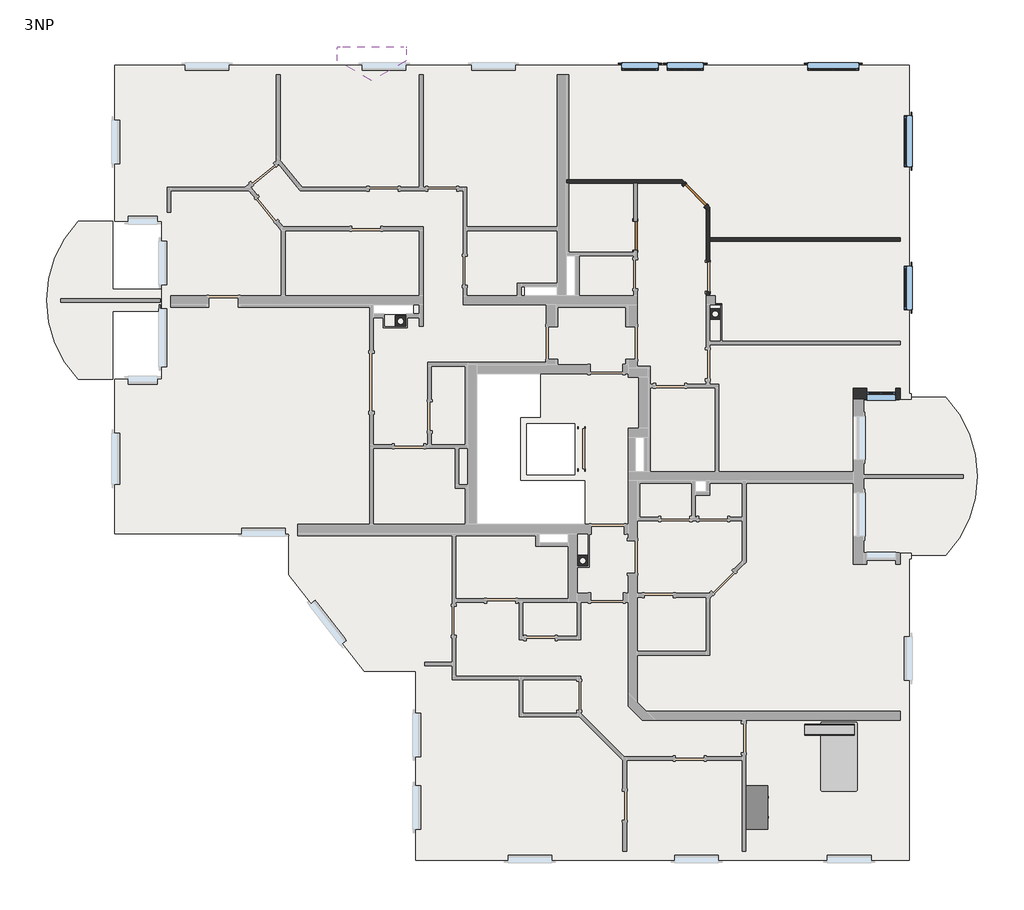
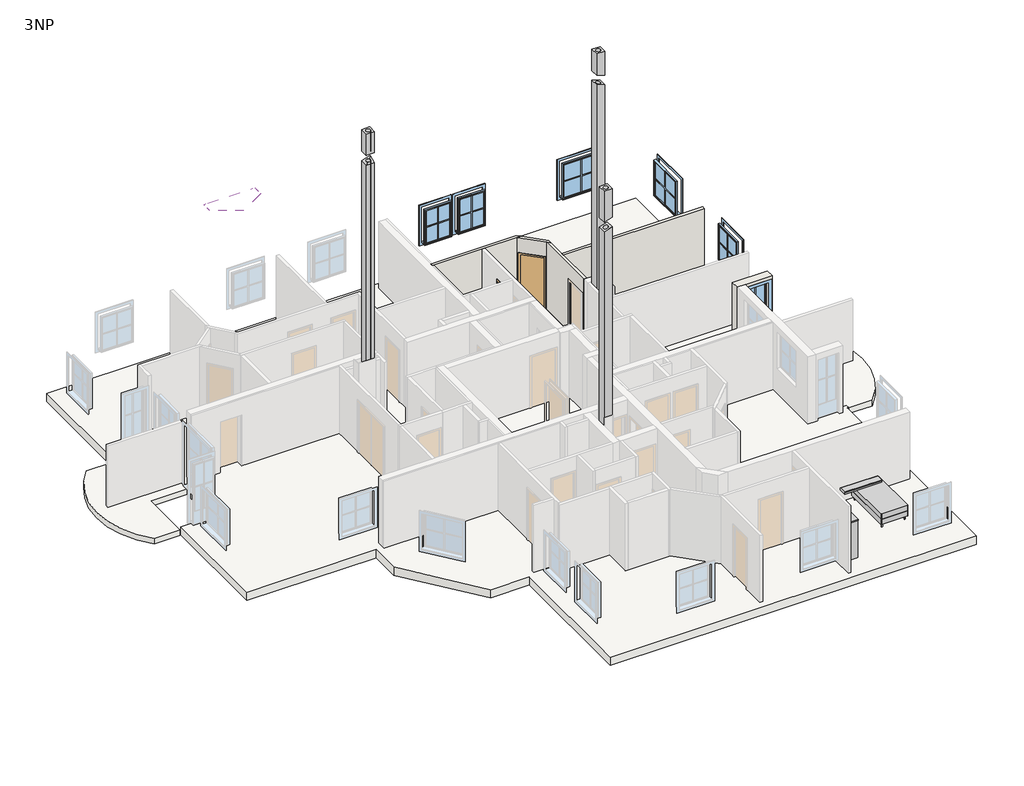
# One storey, part 4 of 4: 6 walls, 6 windows, 3 columns, 3 slabs, 2 doors, 2 furniture elements, 1 roof.
"""IFC4 building model written with IfcOpenShell, lengths in millimetres."""

from ifc_helpers import new_model, si_unit, point, frame, frame_2d, origin, place, context, project, spatial, polyline, circle_curve, ellipse_curve, trimmed, segment, composite_curve, outline, extrude, faceted_brep, transform, mapped, element, save
from ifc_brep_helpers import plane_surface, cylinder_surface, revolved_surface, advanced_brep
from components import sd_800x2000_80f4ff25, furniture_1000_x_1500_x_600mm_3ddbdefd, furniture_1000_x_1900mm_double_9a6708bb, standard_window_with_mullions_d3525f46, standard_window_with_mullions_80486b60, standard_window_with_mullions_12e20a72, window_2_4fa60929

model = new_model("IFC4")

# Units and contexts
model_context = context("Model", 3, world=origin())
ifc_project = project(units=[si_unit("LENGTHUNIT", "METRE", prefix="MILLI")], contexts=[model_context])

# Site, building, storey
site = spatial("IfcSite", under=ifc_project)
building = spatial("IfcBuilding", under=site)
storey = spatial("IfcBuildingStorey", under=building, Name="3NP", Elevation=5900.0)

# Columns
placement = place(None, origin())
element("IfcColumn", 1, ObjectType="AT Kamin : 300/300/160", at=placement, inside=storey, context=model_context, shape_type="AdvancedBrep", body=[
    advanced_brep(
    [(-4557.1962165, 3917.6290541, 17750.0), (-4857.1962165, 3917.6290541, 17750.0), (-4857.1962165, 3617.6290541, 17750.0), (-4557.1962165, 3617.6290541, 17750.0), (-4787.1962165, 3767.6290541, 17750.0), (-4627.1962165, 3767.6290541, 17750.0), (-4557.1962165, 3917.6290541, 17000.1974097), (-4857.1962165, 3917.6290541, 16902.7215009), (-4857.1962165, 3617.6290541, 16902.7215009), (-4841.2600407, 3617.6290541, 16907.8994783), (-4557.1962165, 3617.6290541, 16907.8994783), (-4557.1962165, 3901.6928783, 17000.1974097), (-4787.1962165, 3767.6290541, 16925.4658796), (-4643.223579, 3815.6655158, 16972.2454252), (-4627.1962165, 3767.6290541, 16956.6374327), (-4755.2326782, 3703.6564166, 16935.8514628)],
    [
        (0, 1),
        (1, 2),
        (2, 3),
        (3, 0),
        (4, 5, circle_curve(frame((-4707.1962165, 3767.6290541, 17750.0), z_axis=(0.0, 0.0, -1.0), x_axis=(1.0, 0.0, 0.0)), 80.0)),
        (5, 4, circle_curve(frame((-4707.1962165, 3767.6290541, 17750.0), z_axis=(0.0, 0.0, -1.0), x_axis=(1.0, 0.0, 0.0)), 80.0)),
        (0, 6),
        (6, 7),
        (7, 1),
        (7, 8),
        (8, 2),
        (8, 9),
        (9, 10),
        (10, 3),
        (10, 11),
        (11, 6),
        (4, 12),
        (12, 13, ellipse_curve(frame((-4707.1962165, 3767.6290541, 16951.4594553), z_axis=(0.30901699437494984, 0.0, -0.9510565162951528), x_axis=(-0.9510565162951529, 0.0, -0.30901699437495)), 84.1169779, 80.0)),
        (13, 14, ellipse_curve(frame((-4707.1962165, 3767.6290541, 16956.6374327), z_axis=(0.0, 0.30901699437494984, -0.9510565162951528), x_axis=(0.0, -0.9510565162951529, -0.30901699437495)), 84.1169779, 80.0)),
        (14, 5),
        (14, 15, ellipse_curve(frame((-4707.1962165, 3767.6290541, 16956.6374327), z_axis=(0.0, 0.30901699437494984, -0.9510565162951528), x_axis=(0.0, -0.9510565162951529, -0.30901699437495)), 84.1169779, 80.0)),
        (15, 12, ellipse_curve(frame((-4707.1962165, 3767.6290541, 16951.4594553), z_axis=(0.30901699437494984, 0.0, -0.9510565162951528), x_axis=(-0.9510565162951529, 0.0, -0.30901699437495)), 84.1169779, 80.0)),
        (11, 13),
        (15, 9),
    ],
    [
        plane_surface(frame((-4857.1962165, 3917.6290541, 17750.0), z_axis=(0.0, 0.0, 1.0), x_axis=(-1.0, 0.0, 0.0))),
        plane_surface(frame((-4557.1962165, 3917.6290541, 17750.0), z_axis=(0.0, 1.0, 0.0), x_axis=(0.0, 0.0, -1.0))),
        plane_surface(frame((-4857.1962165, 3917.6290541, 17750.0), z_axis=(-1.0, 0.0, 0.0), x_axis=(0.0, 0.0, -1.0))),
        plane_surface(frame((-4857.1962165, 3617.6290541, 17750.0), z_axis=(0.0, -1.0, 0.0), x_axis=(0.0, 0.0, -1.0))),
        plane_surface(frame((-4557.1962165, 3617.6290541, 17750.0), z_axis=(1.0, 0.0, 0.0), x_axis=(0.0, 0.0, -1.0))),
        revolved_surface(polyline([(-4627.1962165, 3767.6290541, 16925.4658796), (-4627.1962165, 3767.6290541, 17750.0)]), (-4707.1962165, 3767.6290541, 5900.0), (0.0, 0.0, -1.0)),
        plane_surface(frame((-8021.8499172, 8372.0175181, 15874.4631818), z_axis=(0.30901699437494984, 0.0, -0.9510565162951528), x_axis=(0.0, -1.0, 0.0))),
        plane_surface(frame((-8021.8499172, 437.0391776, 15874.4631818), z_axis=(0.0, 0.30901699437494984, -0.9510565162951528), x_axis=(1.0, 0.0, 0.0))),
    ],
    [
        (0, [[1, 2, 3, 4], [5, 6]]),
        (1, [[-1, 7, 8, 9]]),
        (2, [[-2, -9, 10, 11]]),
        (3, [[-3, -11, 12, 13, 14]]),
        (4, [[-4, -14, 15, 16, -7]]),
        (5, [[-5, 17, 18, 19, 20]]),
        (5, [[-6, -20, 21, 22, -17]]),
        (6, [[23, -18, -22, 24, -12, -10, -8, -16]]),
        (7, [[-23, -15, -13, -24, -21, -19]]),
    ],
),
    advanced_brep(
    [(-4557.1962165, 3917.6290541, 5900.0), (-4557.1962165, 3867.6290541, 5900.0), (-4557.1962165, 3617.6290541, 5900.0), (-4857.1962165, 3617.6290541, 5900.0), (-4857.1962165, 3917.6290541, 5900.0), (-4787.1962165, 3767.6290541, 5900.0), (-4627.1962165, 3767.6290541, 5900.0), (-4643.223579, 3815.6655158, 16593.7190245), (-4557.1962165, 3901.6928783, 16621.671009), (-4557.1962165, 3917.6290541, 16621.671009), (-4857.1962165, 3917.6290541, 16524.1951001), (-4857.1962165, 3617.6290541, 16524.1951001), (-4841.2600407, 3617.6290541, 16529.3730775), (-4755.2326782, 3703.6564166, 16557.325062), (-4787.1962165, 3767.6290541, 16546.9394789), (-4627.1962165, 3767.6290541, 16578.111032), (-4557.1962165, 3617.6290541, 16529.3730775), (-4557.1962165, 3617.6290541, 8850.0)],
    [
        (0, 1),
        (1, 2),
        (2, 3),
        (3, 4),
        (4, 0),
        (5, 6, circle_curve(frame((-4707.1962165, 3767.6290541, 5900.0), z_axis=(0.0, 0.0, 1.0), x_axis=(1.0, 0.0, 0.0)), 80.0)),
        (6, 5, circle_curve(frame((-4707.1962165, 3767.6290541, 5900.0), z_axis=(0.0, 0.0, 1.0), x_axis=(1.0, 0.0, 0.0)), 80.0)),
        (7, 8),
        (8, 9),
        (9, 10),
        (10, 11),
        (11, 12),
        (12, 13),
        (13, 14, ellipse_curve(frame((-4707.1962165, 3767.6290541, 16572.9330546), z_axis=(0.30901699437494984, 0.0, -0.9510565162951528), x_axis=(-0.9510565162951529, 0.0, -0.30901699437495)), 84.1169779, 80.0)),
        (14, 7, ellipse_curve(frame((-4707.1962165, 3767.6290541, 16572.9330546), z_axis=(0.30901699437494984, 0.0, -0.9510565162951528), x_axis=(-0.9510565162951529, 0.0, -0.30901699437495)), 84.1169779, 80.0)),
        (7, 15, ellipse_curve(frame((-4707.1962165, 3767.6290541, 16578.111032), z_axis=(0.0, 0.30901699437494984, -0.9510565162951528), x_axis=(0.0, -0.9510565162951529, -0.30901699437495)), 84.1169779, 80.0)),
        (15, 13, ellipse_curve(frame((-4707.1962165, 3767.6290541, 16578.111032), z_axis=(0.0, 0.30901699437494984, -0.9510565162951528), x_axis=(0.0, -0.9510565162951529, -0.30901699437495)), 84.1169779, 80.0)),
        (12, 16),
        (16, 8),
        (4, 10),
        (9, 0),
        (3, 11),
        (2, 17),
        (17, 16),
        (6, 15),
        (14, 5),
    ],
    [
        plane_surface(frame((-4857.1962165, 3917.6290541, 5900.0), z_axis=(0.0, 0.0, -1.0), x_axis=(1.0, 0.0, 0.0))),
        plane_surface(frame((-8021.8499172, 8372.0175181, 15495.936781), z_axis=(-0.30901699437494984, 0.0, 0.9510565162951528), x_axis=(0.0, -1.0, 0.0))),
        plane_surface(frame((-8021.8499172, 437.0391776, 15495.936781), z_axis=(0.0, -0.30901699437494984, 0.9510565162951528), x_axis=(1.0, 0.0, 0.0))),
        plane_surface(frame((-4557.1962165, 3917.6290541, 17750.0), z_axis=(0.0, 1.0, 0.0), x_axis=(0.0, 0.0, -1.0))),
        plane_surface(frame((-4857.1962165, 3917.6290541, 17750.0), z_axis=(-1.0, 0.0, 0.0), x_axis=(0.0, 0.0, -1.0))),
        plane_surface(frame((-4857.1962165, 3617.6290541, 17750.0), z_axis=(0.0, -1.0, 0.0), x_axis=(0.0, 0.0, -1.0))),
        plane_surface(frame((-4557.1962165, 3617.6290541, 17750.0), z_axis=(1.0, 0.0, 0.0), x_axis=(0.0, 0.0, -1.0))),
        revolved_surface(polyline([(-4627.1962165, 3767.6290541, 5900.0), (-4627.1962165, 3767.6290541, 16604.10460768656)]), (-4707.1962165, 3767.6290541, 5900.0), (0.0, 0.0, -1.0)),
    ],
    [
        (0, [[1, 2, 3, 4, 5], [6, 7]]),
        (1, [[8, 9, 10, 11, 12, 13, 14, 15]]),
        (2, [[-8, 16, 17, -13, 18, 19]]),
        (3, [[-5, 20, -10, 21]]),
        (4, [[-4, 22, -11, -20]]),
        (5, [[-3, 23, 24, -18, -12, -22]]),
        (6, [[-2, -1, -21, -9, -19, -24, -23]]),
        (7, [[-7, 25, -16, -15, 26]]),
        (7, [[-6, -26, -14, -17, -25]]),
    ],
),
])
element("IfcColumn", 2, ObjectType="AT Kamin : 300/300/160", at=placement, inside=storey, context=model_context, shape_type="AdvancedBrep", body=[
    advanced_brep(
    [(463.5618728, -2682.3709459, 17750.0), (163.5618728, -2682.3709459, 17750.0), (163.5618728, -2982.3709459, 17750.0), (463.5618728, -2982.3709459, 17750.0), (233.5618728, -2832.3709459, 17750.0), (393.5618728, -2832.3709459, 17750.0), (463.5618728, -2682.3709459, 16623.4506996), (163.5618728, -2682.3709459, 16525.9747908), (163.5618728, -2982.3709459, 16525.9747908), (463.5618728, -2982.3709459, 16623.4506996), (233.5618728, -2832.3709459, 16548.7191695), (393.5618728, -2832.3709459, 16600.7063209)],
    [
        (0, 1),
        (1, 2),
        (2, 3),
        (3, 0),
        (4, 5, circle_curve(frame((313.5618728, -2832.3709459, 17750.0), z_axis=(0.0, 0.0, -1.0), x_axis=(1.0, 0.0, 0.0)), 80.0)),
        (5, 4, circle_curve(frame((313.5618728, -2832.3709459, 17750.0), z_axis=(0.0, 0.0, -1.0), x_axis=(1.0, 0.0, 0.0)), 80.0)),
        (0, 6),
        (6, 7),
        (7, 1),
        (7, 8),
        (8, 2),
        (8, 9),
        (9, 3),
        (9, 6),
        (4, 10),
        (10, 11, ellipse_curve(frame((313.5618728, -2832.3709459, 16574.7127452), z_axis=(0.30901699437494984, 0.0, -0.9510565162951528), x_axis=(-0.9510565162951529, 0.0, -0.30901699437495)), 84.1169779, 80.0)),
        (11, 5),
        (11, 10, ellipse_curve(frame((313.5618728, -2832.3709459, 16574.7127452), z_axis=(0.30901699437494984, 0.0, -0.9510565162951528), x_axis=(-0.9510565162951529, 0.0, -0.30901699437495)), 84.1169779, 80.0)),
    ],
    [
        plane_surface(frame((163.5618728, -2682.3709459, 17750.0), z_axis=(0.0, 0.0, 1.0), x_axis=(-1.0, 0.0, 0.0))),
        plane_surface(frame((463.5618728, -2682.3709459, 17750.0), z_axis=(0.0, 1.0, 0.0), x_axis=(0.0, 0.0, -1.0))),
        plane_surface(frame((163.5618728, -2682.3709459, 17750.0), z_axis=(-1.0, 0.0, 0.0), x_axis=(0.0, 0.0, -1.0))),
        plane_surface(frame((163.5618728, -2982.3709459, 17750.0), z_axis=(0.0, -1.0, 0.0), x_axis=(0.0, 0.0, -1.0))),
        plane_surface(frame((463.5618728, -2982.3709459, 17750.0), z_axis=(1.0, 0.0, 0.0), x_axis=(0.0, 0.0, -1.0))),
        revolved_surface(polyline([(393.5618728, -2832.3709459, 16548.7191695), (393.5618728, -2832.3709459, 17750.0)]), (313.5618728, -2832.3709459, 5900.0), (0.0, 0.0, -1.0)),
        plane_surface(frame((-1841.5846805, 437.0391776, 15874.4631818), z_axis=(0.30901699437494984, 0.0, -0.9510565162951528), x_axis=(0.0, -1.0, 0.0))),
    ],
    [
        (0, [[1, 2, 3, 4], [5, 6]]),
        (1, [[-1, 7, 8, 9]]),
        (2, [[-2, -9, 10, 11]]),
        (3, [[-3, -11, 12, 13]]),
        (4, [[-4, -13, 14, -7]]),
        (5, [[-5, 15, 16, 17]]),
        (5, [[-6, -17, 18, -15]]),
        (6, [[-8, -14, -12, -10], [-16, -18]]),
    ],
),
    advanced_brep(
    [(463.5618728, -2682.3709459, 5900.0), (463.5618728, -2982.3709459, 5900.0), (163.5618728, -2982.3709459, 5900.0), (163.5618728, -2682.3709459, 5900.0), (233.5618728, -2832.3709459, 5900.0), (393.5618728, -2832.3709459, 5900.0), (463.5618728, -2682.3709459, 16244.9242989), (163.5618728, -2682.3709459, 16147.44839), (163.5618728, -2982.3709459, 16147.44839), (463.5618728, -2982.3709459, 16244.9242989), (233.5618728, -2832.3709459, 16170.1927688), (393.5618728, -2832.3709459, 16222.1799202), (163.5618728, -2982.3709459, 8850.0), (463.5618728, -2982.3709459, 8850.0)],
    [
        (0, 1),
        (1, 2),
        (2, 3),
        (3, 0),
        (4, 5, circle_curve(frame((313.5618728, -2832.3709459, 5900.0), z_axis=(0.0, 0.0, 1.0), x_axis=(1.0, 0.0, 0.0)), 80.0)),
        (5, 4, circle_curve(frame((313.5618728, -2832.3709459, 5900.0), z_axis=(0.0, 0.0, 1.0), x_axis=(1.0, 0.0, 0.0)), 80.0)),
        (6, 7),
        (7, 8),
        (8, 9),
        (9, 6),
        (10, 11, ellipse_curve(frame((313.5618728, -2832.3709459, 16196.1863445), z_axis=(0.30901699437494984, 0.0, -0.9510565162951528), x_axis=(-0.9510565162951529, 0.0, -0.30901699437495)), 84.1169779, 80.0)),
        (11, 10, ellipse_curve(frame((313.5618728, -2832.3709459, 16196.1863445), z_axis=(0.30901699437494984, 0.0, -0.9510565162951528), x_axis=(-0.9510565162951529, 0.0, -0.30901699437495)), 84.1169779, 80.0)),
        (3, 7),
        (6, 0),
        (2, 12),
        (12, 8),
        (1, 13),
        (13, 9),
        (5, 11),
        (10, 4),
    ],
    [
        plane_surface(frame((163.5618728, -2682.3709459, 5900.0), z_axis=(0.0, 0.0, -1.0), x_axis=(1.0, 0.0, 0.0))),
        plane_surface(frame((-1841.5846805, 437.0391776, 15495.936781), z_axis=(-0.30901699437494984, 0.0, 0.9510565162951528), x_axis=(0.0, -1.0, 0.0))),
        plane_surface(frame((463.5618728, -2682.3709459, 17750.0), z_axis=(0.0, 1.0, 0.0), x_axis=(0.0, 0.0, -1.0))),
        plane_surface(frame((163.5618728, -2682.3709459, 17750.0), z_axis=(-1.0, 0.0, 0.0), x_axis=(0.0, 0.0, -1.0))),
        plane_surface(frame((163.5618728, -2982.3709459, 17750.0), z_axis=(0.0, -1.0, 0.0), x_axis=(0.0, 0.0, -1.0))),
        plane_surface(frame((463.5618728, -2982.3709459, 17750.0), z_axis=(1.0, 0.0, 0.0), x_axis=(0.0, 0.0, -1.0))),
        revolved_surface(polyline([(393.5618728, -2832.3709459, 5900.0), (393.5618728, -2832.3709459, 16222.1799202)]), (313.5618728, -2832.3709459, 5900.0), (0.0, 0.0, -1.0)),
    ],
    [
        (0, [[1, 2, 3, 4], [5, 6]]),
        (1, [[7, 8, 9, 10], [11, 12]]),
        (2, [[-4, 13, -7, 14]]),
        (3, [[-3, 15, 16, -8, -13]]),
        (4, [[-2, 17, 18, -9, -16, -15]]),
        (5, [[-1, -14, -10, -18, -17]]),
        (6, [[-6, 19, -11, 20]]),
        (6, [[-5, -20, -12, -19]]),
    ],
),
])
element("IfcColumn", 3, ObjectType="AT Kamin : 300/300/160", at=placement, inside=storey, context=model_context, shape_type="AdvancedBrep", body=[
    advanced_brep(
    [(4112.8037835, 4116.2076978, 17750.0), (3812.8037835, 4116.2076978, 17750.0), (3812.8037835, 3816.2076978, 17750.0), (4112.8037835, 3816.2076978, 17750.0), (3882.8037835, 3966.2076978, 17750.0), (4042.8037835, 3966.2076978, 17750.0), (4112.8037835, 4116.2076978, 16807.8848523), (3812.8037835, 4116.2076978, 16905.3607612), (3812.8037835, 3816.2076978, 16905.3607612), (4112.8037835, 3816.2076978, 16807.8848523), (3882.8037835, 3966.2076978, 16882.6163825), (4042.8037835, 3966.2076978, 16830.6292311)],
    [
        (0, 1),
        (1, 2),
        (2, 3),
        (3, 0),
        (4, 5, circle_curve(frame((3962.8037835, 3966.2076978, 17750.0), z_axis=(0.0, 0.0, -1.0), x_axis=(1.0, 0.0, 0.0)), 80.0)),
        (5, 4, circle_curve(frame((3962.8037835, 3966.2076978, 17750.0), z_axis=(0.0, 0.0, -1.0), x_axis=(1.0, 0.0, 0.0)), 80.0)),
        (0, 6),
        (6, 7),
        (7, 1),
        (7, 8),
        (8, 2),
        (8, 9),
        (9, 3),
        (9, 6),
        (4, 10),
        (10, 11, ellipse_curve(frame((3962.8037835, 3966.2076978, 16856.6228068), z_axis=(-0.30901699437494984, 0.0, -0.9510565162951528), x_axis=(0.9510565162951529, 0.0, -0.30901699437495)), 84.1169779, 80.0)),
        (11, 5),
        (11, 10, ellipse_curve(frame((3962.8037835, 3966.2076978, 16856.6228068), z_axis=(-0.30901699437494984, 0.0, -0.9510565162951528), x_axis=(0.9510565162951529, 0.0, -0.30901699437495)), 84.1169779, 80.0)),
    ],
    [
        plane_surface(frame((3812.8037835, 4116.2076978, 17750.0), z_axis=(0.0, 0.0, 1.0), x_axis=(-1.0, 0.0, 0.0))),
        plane_surface(frame((4112.8037835, 4116.2076978, 17750.0), z_axis=(0.0, 1.0, 0.0), x_axis=(0.0, 0.0, -1.0))),
        plane_surface(frame((3812.8037835, 4116.2076978, 17750.0), z_axis=(-1.0, 0.0, 0.0), x_axis=(0.0, 0.0, -1.0))),
        plane_surface(frame((3812.8037835, 3816.2076978, 17750.0), z_axis=(0.0, -1.0, 0.0), x_axis=(0.0, 0.0, -1.0))),
        plane_surface(frame((4112.8037835, 3816.2076978, 17750.0), z_axis=(1.0, 0.0, 0.0), x_axis=(0.0, 0.0, -1.0))),
        revolved_surface(polyline([(4042.8037835, 3966.2076978, 16830.6292311), (4042.8037835, 3966.2076978, 17750.0)]), (3962.8037835, 3966.2076978, 5900.0), (0.0, 0.0, -1.0)),
        plane_surface(frame((6985.5802922, -11532.3709459, 15874.4631818), z_axis=(-0.30901699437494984, 0.0, -0.9510565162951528), x_axis=(0.0, 1.0, 0.0))),
    ],
    [
        (0, [[1, 2, 3, 4], [5, 6]]),
        (1, [[-1, 7, 8, 9]]),
        (2, [[-2, -9, 10, 11]]),
        (3, [[-3, -11, 12, 13]]),
        (4, [[-4, -13, 14, -7]]),
        (5, [[-5, 15, 16, 17]]),
        (5, [[-6, -17, 18, -15]]),
        (6, [[-8, -14, -12, -10], [-16, -18]]),
    ],
),
    advanced_brep(
    [(4112.8037835, 4116.2076978, 5900.0), (4112.8037835, 3816.2076978, 5900.0), (3812.8037835, 3816.2076978, 5900.0), (3812.8037835, 4116.2076978, 5900.0), (3882.8037835, 3966.2076978, 5900.0), (4042.8037835, 3966.2076978, 5900.0), (4112.8037835, 4116.2076978, 16429.3584516), (4012.8037835, 4116.2076978, 16461.8504212), (3882.8037835, 4116.2076978, 16504.0899817), (3812.8037835, 4116.2076978, 16526.8343605), (3812.8037835, 3816.2076978, 16526.8343605), (4112.8037835, 3816.2076978, 16429.3584516), (3882.8037835, 3966.2076978, 16504.0899817), (4042.8037835, 3966.2076978, 16452.1028303), (4112.8037835, 4116.2076978, 11800.0)],
    [
        (0, 1),
        (1, 2),
        (2, 3),
        (3, 0),
        (4, 5, circle_curve(frame((3962.8037835, 3966.2076978, 5900.0), z_axis=(0.0, 0.0, 1.0), x_axis=(1.0, 0.0, 0.0)), 80.0)),
        (5, 4, circle_curve(frame((3962.8037835, 3966.2076978, 5900.0), z_axis=(0.0, 0.0, 1.0), x_axis=(1.0, 0.0, 0.0)), 80.0)),
        (6, 7),
        (7, 8),
        (8, 9),
        (9, 10),
        (10, 11),
        (11, 6),
        (12, 13, ellipse_curve(frame((3962.8037835, 3966.2076978, 16478.096406), z_axis=(-0.30901699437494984, 0.0, -0.9510565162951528), x_axis=(0.9510565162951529, 0.0, -0.30901699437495)), 84.1169779, 80.0)),
        (13, 12, ellipse_curve(frame((3962.8037835, 3966.2076978, 16478.096406), z_axis=(-0.30901699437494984, 0.0, -0.9510565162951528), x_axis=(0.9510565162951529, 0.0, -0.30901699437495)), 84.1169779, 80.0)),
        (3, 9),
        (6, 14),
        (14, 0),
        (2, 10),
        (1, 11),
        (5, 13),
        (12, 4),
    ],
    [
        plane_surface(frame((3812.8037835, 4116.2076978, 5900.0), z_axis=(0.0, 0.0, -1.0), x_axis=(1.0, 0.0, 0.0))),
        plane_surface(frame((6985.5802922, -11532.3709459, 15495.936781), z_axis=(0.30901699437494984, 0.0, 0.9510565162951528), x_axis=(0.0, 1.0, 0.0))),
        plane_surface(frame((4112.8037835, 4116.2076978, 17750.0), z_axis=(0.0, 1.0, 0.0), x_axis=(0.0, 0.0, -1.0))),
        plane_surface(frame((3812.8037835, 4116.2076978, 17750.0), z_axis=(-1.0, 0.0, 0.0), x_axis=(0.0, 0.0, -1.0))),
        plane_surface(frame((3812.8037835, 3816.2076978, 17750.0), z_axis=(0.0, -1.0, 0.0), x_axis=(0.0, 0.0, -1.0))),
        plane_surface(frame((4112.8037835, 3816.2076978, 17750.0), z_axis=(1.0, 0.0, 0.0), x_axis=(0.0, 0.0, -1.0))),
        revolved_surface(polyline([(4042.8037835, 3966.2076978, 5900.0), (4042.8037835, 3966.2076978, 16504.0899817)]), (3962.8037835, 3966.2076978, 5900.0), (0.0, 0.0, -1.0)),
    ],
    [
        (0, [[1, 2, 3, 4], [5, 6]]),
        (1, [[7, 8, 9, 10, 11, 12], [13, 14]]),
        (2, [[-4, 15, -9, -8, -7, 16, 17]]),
        (3, [[-3, 18, -10, -15]]),
        (4, [[-2, 19, -11, -18]]),
        (5, [[-1, -17, -16, -12, -19]]),
        (6, [[-6, 20, -13, 21]]),
        (6, [[-5, -21, -14, -20]]),
    ],
),
])

# Doors
sd_800x2000_shape = sd_800x2000_80f4ff25(model_context)
element("IfcDoor", 4, ObjectType="JednokridlePlne : SD 800x2000", at=placement, inside=storey, context=model_context, shape_type="MappedRepresentation", body=[
    mapped(sd_800x2000_shape, transform((3410.8458954, 7240.2976203, 5900.0), x_axis=(0.7071067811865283, -0.7071067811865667, 0.0), y_axis=(0.7071067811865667, 0.7071067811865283, 0.0), z_axis=(0.0, 0.0, 1.0))),
])
element("IfcDoor", 5, ObjectType="JednokridlePlne : SD 800x2000", at=placement, inside=storey, context=model_context, shape_type="MappedRepresentation", body=[
    mapped(sd_800x2000_shape, transform((1762.8037835, 6127.9240135, 5900.0), x_axis=(0.0, -1.0, 0.0), y_axis=(1.0, 0.0, 0.0), z_axis=(0.0, 0.0, 1.0))),
])

# Furniture
furniture_1000_x_1500_x_600mm_shape = furniture_1000_x_1500_x_600mm_3ddbdefd(model_context)
element("IfcFurniture", 6, ObjectType="Skrin : 1000 x 1500 x 600mm", at=placement, inside=storey, context=model_context, shape_type="MappedRepresentation", body=[
    mapped(furniture_1000_x_1500_x_600mm_shape, transform((4744.8762589, -9358.6647837, 5900.0), x_axis=(0.0, 1.0, 0.0), y_axis=(-1.0, 0.0, 0.0), z_axis=(0.0, 0.0, 1.0))),
])
furniture_1000_x_1900mm_double_shape = furniture_1000_x_1900mm_double_9a6708bb(model_context)
element("IfcFurniture", 7, ObjectType="Postel : 1000 x 1900mm - Double", at=placement, inside=storey, context=model_context, shape_type="MappedRepresentation", body=[
    mapped(furniture_1000_x_1900mm_double_shape, transform((7105.3152589, -8186.7758639, 5900.0), x_axis=(1.0, 0.0, 0.0), y_axis=(0.0, 1.0, 0.0), z_axis=(0.0, 0.0, 1.0))),
])

# Roof
element("IfcRoof", 8, ObjectType="Dormer", at=placement, inside=storey, context=model_context, shape_type="Brep", body=[
    faceted_brep([(-6450.2469102, 11337.6290541, 10859.1168825), (-6450.2469102, 11337.6290541, 11412.1320344), (-5500.2469102, 11337.6290541, 12362.1320344), (-4550.2469102, 11337.6290541, 11412.1320344), (-4550.2469102, 11337.6290541, 10859.1168825), (-4700.2469102, 11337.6290541, 10859.1168825), (-4700.2469102, 11337.6290541, 11350.0), (-5500.2469102, 11337.6290541, 12150.0), (-6300.2469102, 11337.6290541, 11350.0), (-6300.2469102, 11337.6290541, 10859.1168825), (-6450.2469102, 11267.6290541, 10859.1168825), (-6450.2469102, 10948.3456073, 11412.1320344), (-5500.2469102, 10399.8628515, 12362.1320344), (-4550.2469102, 10948.3456073, 11412.1320344), (-4550.2469102, 11267.6290541, 10859.1168825), (-4700.2469102, 11267.6290541, 10859.1168825), (-4700.2469102, 10984.217554, 11350.0), (-5500.2469102, 10522.3373387, 12150.0), (-6300.2469102, 10984.217554, 11350.0), (-6300.2469102, 11267.6290541, 10859.1168825)], [[[0, 1, 2, 3, 4, 5, 6, 7, 8, 9]], [[1, 0, 10, 11]], [[2, 1, 11, 12]], [[3, 2, 12, 13]], [[4, 3, 13, 14]], [[5, 4, 14, 15]], [[6, 5, 15, 16]], [[7, 6, 16, 17]], [[8, 7, 17, 18]], [[9, 8, 18, 19]], [[0, 9, 19, 10]], [[10, 19, 18, 17, 16, 15, 14, 13, 12, 11]]]),
])

# Slabs
element("IfcSlab", 9, ObjectType="Concrete", at=placement, inside=storey, context=model_context, shape_type="SweptSolid", body=[
    extrude(outline(composite_curve([segment(trimmed(circle_curve(frame_2d((-11337.1962165, 4342.6290541)), 3128.236703), [point((-13585.5822754, 2167.6290541))], [point((-13585.5822754, 6517.6290541))], False, "CARTESIAN"), True, "CONTINUOUS"), segment(polyline([(-13585.5822754, 6517.6290541), (-12637.1962165, 6517.6290541), (-12637.1962165, 4647.6290541), (-11287.1962165, 4647.6290541), (-11287.1962165, 4037.6290541), (-12637.1962165, 4037.6290541), (-12637.1962165, 2167.6290541), (-13585.5822754, 2167.6290541)]), True, "CONTINUOUS")], self_intersect=False)), frame((0.0, 0.0, 5580.0), z_axis=(0.0, 0.0, 1.0), x_axis=(1.0, 0.0, 0.0)), (0.0, 0.0, 1.0), 220.0),
])
element("IfcSlab", 10, ObjectType="Concrete", at=placement, inside=storey, context=model_context, shape_type="AdvancedBrep", body=[
    advanced_brep(
    [(10311.1898424, 1667.6290541, 5580.0), (10311.1898424, -2682.3709459, 5580.0), (9362.8037835, -2682.3709459, 5580.0), (8012.8037835, -2682.3709459, 5580.0), (8012.8037835, 1667.6290541, 5580.0), (9362.8037835, 1667.6290541, 5580.0), (10311.1898424, 1667.6290541, 5800.0), (8012.8037835, 1667.6290541, 5800.0), (8012.8037835, -2682.3709459, 5800.0), (10311.1898424, -2682.3709459, 5800.0)],
    [
        (0, 1, circle_curve(frame((8062.8037835, -507.3709459, 5580.0), z_axis=(0.0, 0.0, -1.0), x_axis=(1.0, 0.0, 0.0)), 3128.236703)),
        (1, 2),
        (2, 3),
        (3, 4),
        (4, 5),
        (5, 0),
        (6, 7),
        (7, 8),
        (8, 9),
        (9, 6, circle_curve(frame((8062.8037835, -507.3709459, 5800.0), z_axis=(0.0, 0.0, 1.0), x_axis=(1.0, 0.0, 0.0)), 3128.236703)),
        (0, 6),
        (9, 1),
        (8, 3),
        (7, 4),
    ],
    [
        plane_surface(frame((11191.0404865, -507.3709459, 5580.0), z_axis=(0.0, 0.0, -1.0), x_axis=(0.0, -1.0, 0.0))),
        plane_surface(frame((11191.0404865, -507.3709459, 5800.0), z_axis=(0.0, 0.0, 1.0), x_axis=(0.0, 1.0, 0.0))),
        cylinder_surface(frame((8062.8037835, -507.3709459, 5800.0), z_axis=(0.0, 0.0, -1.0), x_axis=(1.0, 0.0, 0.0)), 3128.236703),
        plane_surface(frame((10311.1898424, -2682.3709459, 5580.0), z_axis=(0.0, -1.0, 0.0), x_axis=(0.0, 0.0, 1.0))),
        plane_surface(frame((8012.8037835, -2682.3709459, 5580.0), z_axis=(-1.0, 0.0, 0.0), x_axis=(0.0, 0.0, 1.0))),
        plane_surface(frame((8012.8037835, 1667.6290541, 5580.0), z_axis=(0.0, 1.0, 0.0), x_axis=(0.0, 0.0, 1.0))),
    ],
    [
        (0, [[1, 2, 3, 4, 5, 6]]),
        (1, [[7, 8, 9, 10]]),
        (2, [[-1, 11, -10, 12]]),
        (3, [[-3, -2, -12, -9, 13]]),
        (4, [[-4, -13, -8, 14]]),
        (5, [[-6, -5, -14, -7, -11]]),
    ],
),
])
element("IfcSlab", 11, ObjectType="STB200 + 120", at=placement, inside=storey, context=model_context, shape_type="Brep", body=[
    faceted_brep([(9312.8037835, 10817.6290541, 5580.0), (9312.8037835, 1767.6290541, 5580.0), (9362.8037835, 1767.6290541, 5580.0), (9362.8037835, 1667.6290541, 5580.0), (8012.8037835, 1667.6290541, 5580.0), (8012.8037835, -2682.3709459, 5580.0), (9362.8037835, -2682.3709459, 5580.0), (9362.8037835, -2782.3709459, 5580.0), (9312.8037835, -2782.3709459, 5580.0), (9312.8037835, -11082.3709459, 5580.0), (-4287.1962165, -11082.3709459, 5580.0), (-4287.1962165, -5882.3709459, 5580.0), (-5712.7420262, -5882.3709459, 5580.0), (-7787.1962165, -3215.2155584, 5580.0), (-7787.1962165, -2082.3709459, 5580.0), (-12587.1962165, -2082.3709459, 5580.0), (-12587.1962165, 2167.6290541, 5580.0), (-11287.1962165, 2167.6290541, 5580.0), (-11287.1962165, 4037.6290541, 5580.0), (-11287.1962165, 4647.6290541, 5580.0), (-11287.1962165, 6517.6290541, 5580.0), (-12587.1962165, 6517.6290541, 5580.0), (-12587.1962165, 10817.6290541, 5580.0), (-2607.1962165, 2317.6290541, 5580.0), (-2607.1962165, -1832.3709459, 5580.0), (362.8037835, -1832.3709459, 5580.0), (362.8037835, -632.3709459, 5580.0), (-1407.1962165, -632.3709459, 5580.0), (-1407.1962165, 1117.6290541, 5580.0), (-857.1962165, 1117.6290541, 5580.0), (-857.1962165, 2317.6290541, 5580.0), (-387.1962165, 4717.6290541, 5580.0), (-1287.1962165, 4717.6290541, 5580.0), (-1287.1962165, 4467.6290541, 5580.0), (-387.1962165, 4467.6290541, 5580.0), (112.8037835, 4467.6290541, 5580.0), (112.8037835, 5567.6290541, 5580.0), (-137.1962165, 5567.6290541, 5580.0), (-137.1962165, 4467.6290541, 5580.0), (-4357.1962165, 4217.6290541, 5580.0), (-5457.1962165, 4217.6290541, 5580.0), (-5457.1962165, 3967.6290541, 5580.0), (-4357.1962165, 3967.6290541, 5580.0), (2012.8037835, 567.6290541, 5580.0), (1762.8087381, 567.6290541, 5580.0), (1762.8087381, -382.3709459, 5580.0), (2012.8037835, -382.3709459, 5580.0), (3712.8037835, -632.3709459, 5580.0), (3412.8037835, -632.3709459, 5580.0), (3412.8037835, -932.3709459, 5580.0), (3712.8037835, -932.3709459, 5580.0), (-86.4381272, -2082.3709459, 5580.0), (-886.4381272, -2082.3709459, 5580.0), (-886.4381272, -2332.3709459, 5580.0), (-86.4381272, -2332.3709459, 5580.0), (87.8037835, 947.6290541, 5580.0), (-1237.1962165, 947.6290541, 5580.0), (-1237.1962165, -462.3709459, 5580.0), (87.8037835, -462.3709459, 5580.0), (9312.8037835, 1767.6290541, 5900.0), (9312.8037835, 10817.6290541, 5900.0), (-12587.1962165, 10817.6290541, 5900.0), (-12587.1962165, 6517.6290541, 5900.0), (-12207.370388, 6517.6290541, 5900.0), (-11407.370388, 6517.6290541, 5900.0), (-11287.1962165, 6517.6290541, 5900.0), (-11287.1962165, 4117.6290559, 5900.0), (-11287.1962165, 2517.6290559, 5900.0), (-11287.1962165, 2167.6290541, 5900.0), (-11407.3703663, 2167.6290541, 5900.0), (-12207.3703663, 2167.6290541, 5900.0), (-12587.1962165, 2167.6290541, 5900.0), (-12587.1962165, -2082.3709459, 5900.0), (-7787.1962165, -2082.3709459, 5900.0), (-7787.1962165, -3215.2155584, 5900.0), (-5712.7420262, -5882.3709459, 5900.0), (-4287.1962165, -5882.3709459, 5900.0), (-4287.1962165, -11082.3709459, 5900.0), (9312.8037835, -11082.3709459, 5900.0), (9312.8037835, -2782.3709459, 5900.0), (9362.8037835, -2782.3709459, 5900.0), (9362.8037835, -2632.3709459, 5900.0), (9062.8037835, -2632.3709459, 5900.0), (8932.977935, -2632.3709459, 5900.0), (8132.977935, -2632.3709459, 5900.0), (8062.8037835, -2632.3709459, 5900.0), (8062.8037835, 1617.6290541, 5900.0), (9062.8037835, 1617.6290541, 5900.0), (9362.8037835, 1617.6290541, 5900.0), (9362.8037835, 1767.6290541, 5900.0), (-2607.1962165, -1832.3709459, 5900.0), (-2607.1962165, 2317.6290541, 5900.0), (-857.1962165, 2317.6290541, 5900.0), (-857.1962165, 1117.6290541, 5900.0), (-1407.1962165, 1117.6290541, 5900.0), (-1407.1962165, -632.3709459, 5900.0), (362.8037835, -632.3709459, 5900.0), (362.8037835, -1832.3709459, 5900.0), (-1287.1962165, 4717.6290541, 5900.0), (-387.1962165, 4717.6290541, 5900.0), (-387.1962165, 4467.6290541, 5900.0), (-1287.1962165, 4467.6290541, 5900.0), (112.8037835, 5567.6290541, 5900.0), (112.8037835, 4467.6290541, 5900.0), (-137.1962165, 4467.6290541, 5900.0), (-137.1962165, 5567.6290541, 5900.0), (-5457.1962165, 4217.6290541, 5900.0), (-4357.1962165, 4217.6290541, 5900.0), (-4357.1962165, 3967.6290541, 5900.0), (-5457.1962165, 3967.6290541, 5900.0), (1762.8087381, 567.6290541, 5900.0), (2012.8037835, 567.6290541, 5900.0), (2012.8037835, -382.3709459, 5900.0), (1762.8087381, -382.3709459, 5900.0), (3412.8037835, -632.3709459, 5900.0), (3712.8037835, -632.3709459, 5900.0), (3712.8037835, -932.3709459, 5900.0), (3412.8037835, -932.3709459, 5900.0), (-886.4381272, -2082.3709459, 5900.0), (-86.4381272, -2082.3709459, 5900.0), (-86.4381272, -2332.3709459, 5900.0), (-886.4381272, -2332.3709459, 5900.0), (-1237.1962165, 947.6290541, 5900.0), (87.8037835, 947.6290541, 5900.0), (87.8037835, -462.3709459, 5900.0), (-1237.1962165, -462.3709459, 5900.0), (9362.8037835, 1617.6290541, 5800.0), (9362.8037835, 1667.6290541, 5800.0), (8062.8037835, 1617.6290541, 5800.0), (8062.8037835, -2632.3709459, 5800.0), (9362.8037835, -2632.3709459, 5800.0), (9362.8037835, -2682.3709459, 5800.0), (8012.8037835, -2682.3709459, 5800.0), (8012.8037835, 1667.6290541, 5800.0)], [[[0, 1, 2, 3, 4, 5, 6, 7, 8, 9, 10, 11, 12, 13, 14, 15, 16, 17, 18, 19, 20, 21, 22], [23, 24, 25, 26, 27, 28, 29, 30], [31, 32, 33, 34], [35, 36, 37, 38], [39, 40, 41, 42], [43, 44, 45, 46], [47, 48, 49, 50], [51, 52, 53, 54], [55, 56, 57, 58]], [[59, 60, 61, 62, 63, 64, 65, 66, 67, 68, 69, 70, 71, 72, 73, 74, 75, 76, 77, 78, 79, 80, 81, 82, 83, 84, 85, 86, 87, 88, 89], [90, 91, 92, 93, 94, 95, 96, 97], [98, 99, 100, 101], [102, 103, 104, 105], [106, 107, 108, 109], [110, 111, 112, 113], [114, 115, 116, 117], [118, 119, 120, 121], [122, 123, 124, 125]], [[1, 0, 60, 59]], [[2, 1, 59, 89]], [[89, 88, 126, 127, 3, 2]], [[88, 87, 86, 128, 126]], [[86, 85, 129, 128]], [[85, 84, 83, 82, 81, 130, 129]], [[81, 80, 7, 6, 131, 130]], [[8, 7, 80, 79]], [[9, 8, 79, 78]], [[10, 9, 78, 77]], [[11, 10, 77, 76]], [[12, 11, 76, 75]], [[13, 12, 75, 74]], [[14, 13, 74, 73]], [[15, 14, 73, 72]], [[16, 15, 72, 71]], [[17, 16, 71, 70, 69, 68]], [[68, 67, 66, 65, 20, 19, 18, 17]], [[21, 20, 65, 64, 63, 62]], [[22, 21, 62, 61]], [[0, 22, 61, 60]], [[24, 23, 91, 90]], [[25, 24, 90, 97]], [[26, 25, 97, 96]], [[27, 26, 96, 95]], [[28, 27, 95, 94]], [[29, 28, 94, 93]], [[30, 29, 93, 92]], [[23, 30, 92, 91]], [[32, 31, 99, 98]], [[33, 32, 98, 101]], [[34, 33, 101, 100]], [[31, 34, 100, 99]], [[36, 35, 103, 102]], [[37, 36, 102, 105]], [[38, 37, 105, 104]], [[35, 38, 104, 103]], [[40, 39, 107, 106]], [[41, 40, 106, 109]], [[42, 41, 109, 108]], [[39, 42, 108, 107]], [[44, 43, 111, 110]], [[45, 44, 110, 113]], [[46, 45, 113, 112]], [[43, 46, 112, 111]], [[48, 47, 115, 114]], [[49, 48, 114, 117]], [[50, 49, 117, 116]], [[47, 50, 116, 115]], [[52, 51, 119, 118]], [[53, 52, 118, 121]], [[54, 53, 121, 120]], [[51, 54, 120, 119]], [[56, 55, 123, 122]], [[57, 56, 122, 125]], [[58, 57, 125, 124]], [[55, 58, 124, 123]], [[132, 133, 127, 126, 128, 129, 130, 131]], [[5, 132, 131, 6]], [[133, 132, 5, 4]], [[133, 4, 3, 127]]]),
])

# Walls
element("IfcWall", 12, ObjectType="Exterior - 250+50mm", at=placement, inside=storey, context=model_context, shape_type="Brep", body=[
    faceted_brep([(9062.8037835, 1917.6290541, 5900.0), (8932.977935, 1917.6290541, 5900.0), (8932.977935, 1917.6290541, 8300.0), (8132.977935, 1917.6290541, 8300.0), (8132.977935, 1917.6290541, 5900.0), (7762.8037835, 1917.6290541, 5900.0), (7762.8037835, 1917.6290541, 8530.0), (9062.8037835, 1917.6290541, 8530.0), (8932.977935, 1617.6290541, 8300.0), (8932.977935, 1617.6290541, 5900.0), (9062.8037835, 1617.6290541, 5900.0), (9062.8037835, 1617.6290541, 8530.0), (8062.8037835, 1617.6290541, 8530.0), (7762.8037835, 1617.6290541, 8530.0), (7762.8037835, 1617.6290541, 5900.0), (8062.8037835, 1617.6290541, 5900.0), (8132.977935, 1617.6290541, 5900.0), (8132.977935, 1617.6290541, 8300.0)], [[[0, 1, 2, 3, 4, 5, 6, 7]], [[8, 9, 10, 11, 12, 13, 14, 15, 16, 17]], [[10, 9, 1, 0]], [[16, 15, 14, 5, 4]], [[6, 5, 14, 13]], [[0, 7, 11, 10]], [[7, 6, 13, 12, 11]], [[2, 1, 9, 8]], [[3, 2, 8, 17]], [[4, 3, 17, 16]]]),
])
element("IfcWall", 13, ObjectType="Interior - 100mm", at=placement, inside=storey, context=model_context, shape_type="Brep", body=[
    faceted_brep([(-137.1962165, 7567.6290541, 5900.0), (-72.1962165, 7567.6290541, 5900.0), (1712.8037835, 7567.6290541, 5900.0), (1812.8037835, 7567.6290541, 5900.0), (3012.8037835, 7567.6290541, 5900.0), (3154.2251397, 7567.6290541, 5900.0), (3154.2251397, 7567.6290541, 8530.0), (3012.8037835, 7567.6290541, 8530.0), (1812.8037835, 7567.6290541, 8530.0), (1712.8037835, 7567.6290541, 8530.0), (-72.1962165, 7567.6290541, 8530.0), (-137.1962165, 7567.6290541, 8530.0), (3054.2251397, 7667.6290541, 5900.0), (-137.1962165, 7667.6290541, 5900.0), (-137.1962165, 7667.6290541, 8530.0), (3054.2251397, 7667.6290541, 8530.0)], [[[0, 1, 2, 3, 4, 5, 6, 7, 8, 9, 10, 11]], [[12, 13, 14, 15]], [[5, 4, 3, 2, 1, 0, 13, 12]], [[6, 5, 12, 15]], [[0, 11, 14, 13]], [[11, 10, 9, 8, 7, 6, 15, 14]]]),
])
element("IfcWall", 14, ObjectType="Interior - 100mm", at=placement, inside=storey, context=model_context, shape_type="Brep", body=[
    faceted_brep([(3812.8037835, 6767.6290541, 5900.0), (3812.8037835, 6767.6290541, 8530.0), (3712.8037835, 6867.6290541, 8530.0), (3012.8037835, 7567.6290541, 8530.0), (3012.8037835, 7567.6290541, 5900.0), (3092.6478438, 7487.7849937, 5900.0), (3092.6478438, 7487.7849937, 7900.0), (3658.3332688, 6922.0995688, 7900.0), (3658.3332688, 6922.0995688, 5900.0), (3712.8037835, 6867.6290541, 5900.0), (3812.8037835, 6909.0504103, 8530.0), (3812.8037835, 6909.0504103, 5900.0), (3729.0439469, 6992.8102469, 5900.0), (3729.0439469, 6992.8102469, 7900.0), (3163.3585219, 7558.4956719, 7900.0), (3163.3585219, 7558.4956719, 5900.0), (3154.2251397, 7567.6290541, 5900.0), (3154.2251397, 7567.6290541, 8530.0)], [[[0, 1, 2, 3, 4, 5, 6, 7, 8, 9]], [[10, 11, 12, 13, 14, 15, 16, 17]], [[11, 0, 9, 8, 12]], [[4, 16, 15, 5]], [[1, 0, 11, 10]], [[4, 3, 17, 16]], [[3, 2, 1, 10, 17]], [[7, 13, 12, 8]], [[13, 7, 6, 14]], [[14, 6, 5, 15]]]),
])
element("IfcWall", 15, ObjectType="Interior - 100mm", at=placement, inside=storey, context=model_context, shape_type="Brep", body=[
    faceted_brep([(3712.8037835, 4588.8717038, 7900.0), (3712.8037835, 4588.8717038, 5900.0), (3712.8037835, 4467.6290541, 5900.0), (3712.8037835, 4467.6290541, 8530.0), (3712.8037835, 6867.6290541, 8530.0), (3712.8037835, 6867.6290541, 5900.0), (3712.8037835, 5388.8717038, 5900.0), (3712.8037835, 5388.8717038, 7900.0), (3812.8037835, 4467.6290541, 5900.0), (3812.8037835, 4588.8717038, 5900.0), (3812.8037835, 4588.8717038, 7900.0), (3812.8037835, 5388.8717038, 7900.0), (3812.8037835, 5388.8717038, 5900.0), (3812.8037835, 5967.6290541, 5900.0), (3812.8037835, 6067.6290541, 5900.0), (3812.8037835, 6767.6290541, 5900.0), (3812.8037835, 6767.6290541, 8530.0), (3812.8037835, 6067.6290541, 8530.0), (3812.8037835, 5967.6290541, 8530.0), (3812.8037835, 4467.6290541, 8530.0)], [[[0, 1, 2, 3, 4, 5, 6, 7]], [[8, 9, 10, 11, 12, 13, 14, 15, 16, 17, 18, 19]], [[2, 1, 9, 8]], [[6, 5, 15, 14, 13, 12]], [[5, 4, 16, 15]], [[3, 2, 8, 19]], [[4, 3, 19, 18, 17, 16]], [[10, 9, 1, 0]], [[11, 10, 0, 7]], [[12, 11, 7, 6]]]),
])
element("IfcWall", 16, ObjectType="Interior - 100mm", at=placement, inside=storey, context=model_context, shape_type="SweptSolid", body=[
    extrude(outline(polyline([(9062.8037835, 5967.6290541), (3812.8037835, 5967.6290541), (3812.8037835, 6067.6290541), (9062.8037835, 6067.6290541), (9062.8037835, 5967.6290541)])), frame((0.0, 0.0, 5900.0), z_axis=(0.0, 0.0, 1.0), x_axis=(1.0, 0.0, 0.0)), (0.0, 0.0, 1.0), 2630.0),
])
element("IfcWall", 17, ObjectType="Interior - 300mm", at=placement, inside=storey, context=model_context, shape_type="Brep", body=[
    faceted_brep([(3962.8037835, 4217.6290541, 5900.0), (4112.8037835, 4217.6290541, 5900.0), (4142.8037835, 4217.6290541, 5900.0), (4142.8037835, 4217.6290541, 8850.0), (4112.8037835, 4217.6290541, 8850.0), (3962.8037835, 4217.6290541, 8850.0), (3962.8037835, 4217.6290541, 8530.0), (3962.8037835, 4247.6290541, 5900.0), (3962.8037835, 4247.6290541, 8850.0), (4142.8037835, 4247.6290541, 8850.0), (4142.8037835, 4247.6290541, 5900.0)], [[[0, 1, 2, 3, 4, 5, 6]], [[7, 8, 9, 10]], [[2, 1, 0, 7, 10]], [[5, 4, 3, 9, 8]], [[0, 6, 5, 8, 7]], [[3, 2, 10, 9]]]),
])

# Windows
standard_window_with_mullions_shape = standard_window_with_mullions_d3525f46(model_context)
element("IfcWindow", 18, ObjectType="Standard Window with mullions : 1400/1400", at=placement, inside=storey, context=model_context, shape_type="MappedRepresentation", body=[
    mapped(standard_window_with_mullions_shape, transform((7214.6462462, 10717.6290541, 5900.0), x_axis=(1.0, 0.0, 0.0), y_axis=(0.0, 1.0, 0.0), z_axis=(0.0, 0.0, 1.0))),
])
element("IfcWindow", 19, ObjectType="Standard Window with mullions : 1400/1400", at=placement, inside=storey, context=model_context, shape_type="MappedRepresentation", body=[
    mapped(standard_window_with_mullions_shape, transform((9212.8037835, 8725.6927772, 5900.0), x_axis=(0.0, -1.0, 0.0), y_axis=(1.0, 0.0, 0.0), z_axis=(0.0, 0.0, 1.0))),
])
standard_window_with_mullions_2_shape = standard_window_with_mullions_80486b60(model_context)
element("IfcWindow", 20, ObjectType="Standard Window with mullions : 1200/1400", at=placement, inside=storey, context=model_context, shape_type="MappedRepresentation", body=[
    mapped(standard_window_with_mullions_2_shape, transform((9212.8037835, 4688.4530256, 5900.0), x_axis=(0.0, -1.0, 0.0), y_axis=(1.0, 0.0, 0.0), z_axis=(0.0, 0.0, 1.0))),
])
standard_window_with_mullions_3_shape = standard_window_with_mullions_12e20a72(model_context)
element("IfcWindow", 21, ObjectType="Standard Window with mullions : 1000/1400", at=placement, inside=storey, context=model_context, shape_type="MappedRepresentation", body=[
    mapped(standard_window_with_mullions_3_shape, transform((1887.8037835, 10717.6290541, 5900.0), x_axis=(1.0, 0.0, 0.0), y_axis=(0.0, 1.0, 0.0), z_axis=(0.0, 0.0, 1.0))),
])
element("IfcWindow", 22, ObjectType="Standard Window with mullions : 1000/1400", at=placement, inside=storey, context=model_context, shape_type="MappedRepresentation", body=[
    mapped(standard_window_with_mullions_3_shape, transform((3137.8037835, 10717.6290541, 5900.0), x_axis=(1.0, 0.0, 0.0), y_axis=(0.0, 1.0, 0.0), z_axis=(0.0, 0.0, 1.0))),
])
window_2_shape = window_2_4fa60929(model_context)
element("IfcWindow", 23, ObjectType="Window 2 : 800/2400", at=placement, inside=storey, context=model_context, shape_type="MappedRepresentation", body=[
    mapped(window_2_shape, transform((8532.977935, 1767.6290541, 5900.0), x_axis=(-1.0, 0.0, 0.0), y_axis=(0.0, -1.0, 0.0), z_axis=(0.0, 0.0, 1.0))),
])

save(model, "model.ifc")
